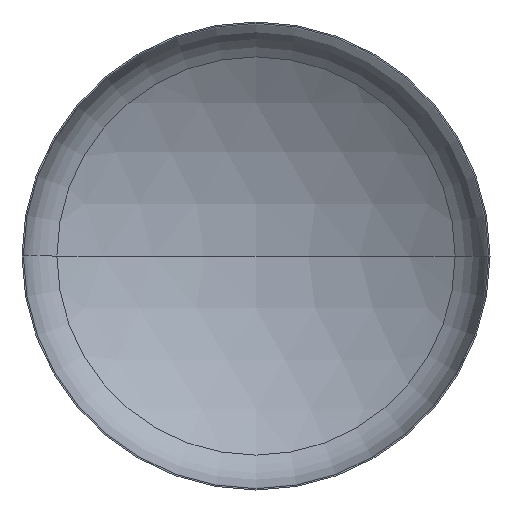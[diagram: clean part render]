
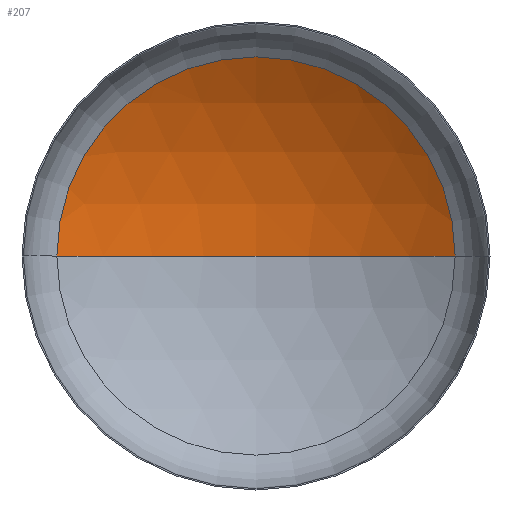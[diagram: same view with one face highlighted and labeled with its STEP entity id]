
A CAD part, front view. The second image highlights one B-rep face of the part: STEP entity #207.
In plain terms, the highlighted spherical face has radius 1360 mm.
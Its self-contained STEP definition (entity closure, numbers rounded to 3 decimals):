
#3 = EDGE_LOOP ( 'NONE', ( #241, #411, #370 ) ) ;
#21 = AXIS2_PLACEMENT_3D ( 'NONE', #283, #396, #257 ) ;
#25 = DIRECTION ( 'NONE',  ( 0., 0., 1. ) ) ;
#29 = CARTESIAN_POINT ( 'NONE',  ( 0., 448.456, 0. ) ) ;
#30 = CARTESIAN_POINT ( 'NONE',  ( 0., -911.544, 0. ) ) ;
#34 = FACE_OUTER_BOUND ( 'NONE', #3, .T. ) ;
#36 = DIRECTION ( 'NONE',  ( 1., 0., 0. ) ) ;
#48 = AXIS2_PLACEMENT_3D ( 'NONE', #138, #315, #206 ) ;
#51 = AXIS2_PLACEMENT_3D ( 'NONE', #264, #92, #299 ) ;
#53 = VERTEX_POINT ( 'NONE', #338 ) ;
#75 = CIRCLE ( 'NONE', #51, 1360. ) ;
#86 = CIRCLE ( 'NONE', #394, 1360. ) ;
#92 = DIRECTION ( 'NONE',  ( 0., 0., -1. ) ) ;
#138 = CARTESIAN_POINT ( 'NONE',  ( 0., -911.544, 0. ) ) ;
#139 = SPHERICAL_SURFACE ( 'NONE', #48, 1360. ) ;
#194 = CARTESIAN_POINT ( 'NONE',  ( 723.273, 240.183, 0. ) ) ;
#206 = DIRECTION ( 'NONE',  ( -1., 0., 0. ) ) ;
#207 = ADVANCED_FACE ( 'NONE', ( #34 ), #139, .F. ) ;
#234 = VERTEX_POINT ( 'NONE', #29 ) ;
#241 = ORIENTED_EDGE ( 'NONE', *, *, #366, .F. ) ;
#255 = CIRCLE ( 'NONE', #21, 723.273 ) ;
#257 = DIRECTION ( 'NONE',  ( 1., 0., 0. ) ) ;
#264 = CARTESIAN_POINT ( 'NONE',  ( 0., -911.544, 0. ) ) ;
#283 = CARTESIAN_POINT ( 'NONE',  ( 0., 240.183, 0. ) ) ;
#299 = DIRECTION ( 'NONE',  ( -1., 0., 0. ) ) ;
#314 = VERTEX_POINT ( 'NONE', #194 ) ;
#315 = DIRECTION ( 'NONE',  ( 0., 0., -1. ) ) ;
#322 = EDGE_CURVE ( 'NONE', #314, #53, #255, .T. ) ;
#338 = CARTESIAN_POINT ( 'NONE',  ( -723.273, 240.183, 0. ) ) ;
#366 = EDGE_CURVE ( 'NONE', #234, #53, #86, .T. ) ;
#370 = ORIENTED_EDGE ( 'NONE', *, *, #322, .T. ) ;
#373 = EDGE_CURVE ( 'NONE', #234, #314, #75, .T. ) ;
#394 = AXIS2_PLACEMENT_3D ( 'NONE', #30, #25, #36 ) ;
#396 = DIRECTION ( 'NONE',  ( 0., -1., 0. ) ) ;
#411 = ORIENTED_EDGE ( 'NONE', *, *, #373, .T. ) ;
